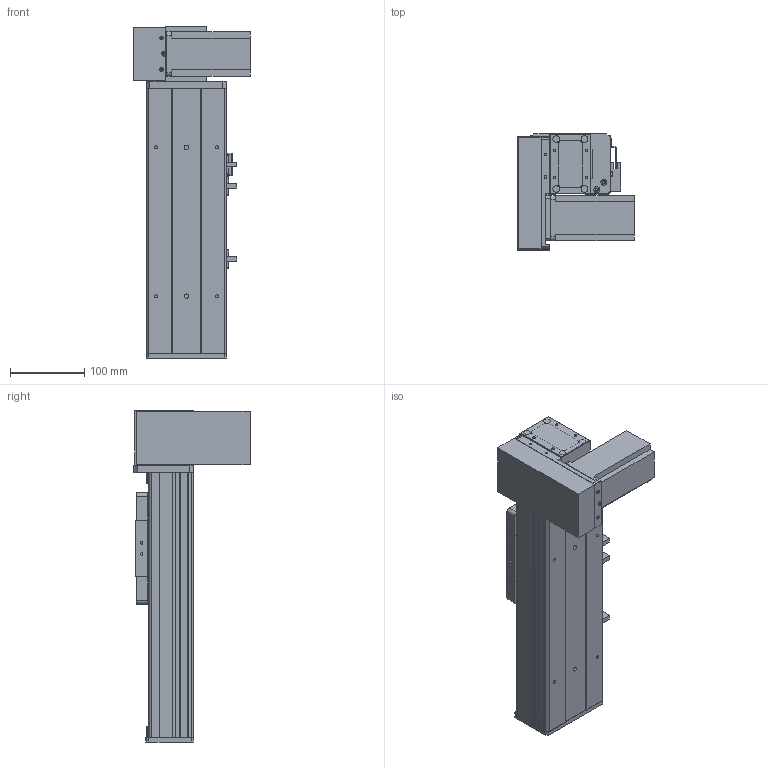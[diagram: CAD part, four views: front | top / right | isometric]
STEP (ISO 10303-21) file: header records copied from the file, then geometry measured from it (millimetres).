
FILE_DESCRIPTION (( 'STEP AP203' ), '1' );
FILE_NAME ('Y10CB-D90-S100-BM-P400W.STEP', '2020-02-16T08:40:22', ( '微软用户' ), ( '微软中国' ), 'SwSTEP 2.0', 'SolidWorks 2017', '' );
FILE_SCHEMA (( 'CONFIG_CONTROL_DESIGN' ));
Length unit declared in the file: millimetre
Products named in the file (18): Y10B-耜蚾蟀諉啣----; Y10CB- 掛极耜裔啣-毀---; 0CB-雄赽釱---; Y10CB-D90-S100-BM-P400W; Y10C---詩湍揤啣; 0Cb-俋欶---; 10CB9-掛极; Y10B-々湍喘謫眊楊擘啣--; 10CB-耜裔; 0B-萇儂楊擘啣; Y135C-陔俋离換覜結え-; san松下电机400不带刹车----; Y100-135俋离換覜ん--; 0B-源倛裔啣; Y10B--々湍喘謫眊--666; 0B-埴倛裔啣; 00B-俋欶BM--; 10CB-詩湍-
Assembly tree (21 placements, depth 2):
  Y10CB-D90-S100-BM-P400W
    0CB-雄赽釱---
    0Cb-俋欶---
    Y10B-々湍喘謫眊楊擘啣--
    0B-萇儂楊擘啣
    san松下电机400不带刹车----
    0B-源倛裔啣
    0B-埴倛裔啣
    10CB-詩湍-
    Y10CB- 掛极耜裔啣-毀---  x2
    Y10C---詩湍揤啣  x2
    10CB9-掛极
    10CB-耜裔
    Y135C-陔俋离換覜結え-
    Y100-135俋离換覜ん--  x3
    Y10B--々湍喘謫眊--666
    00B-俋欶BM--
    Y10B-耜蚾蟀諉啣----
Bounding box: 157 x 156 x 446 mm (x, y, z)
Volume: 1565588.1 mm3; surface area: 619104.8 mm2
Topology: 21 solids, 21 shells, 930 faces, 2443 edges, 1610 vertices
Faces by surface type: plane 467, cylinder 439, cone 24
Entity records: 28412 total; most frequent: CARTESIAN_POINT 4729, DIRECTION 4658, ORIENTED_EDGE 4356, EDGE_CURVE 2178, AXIS2_PLACEMENT_3D 1669, VERTEX_POINT 1436, LINE 1320, VECTOR 1320
